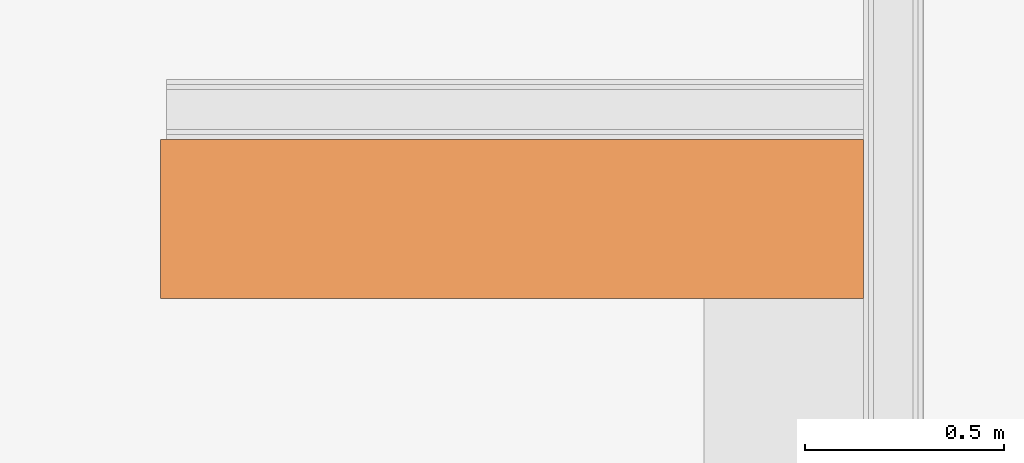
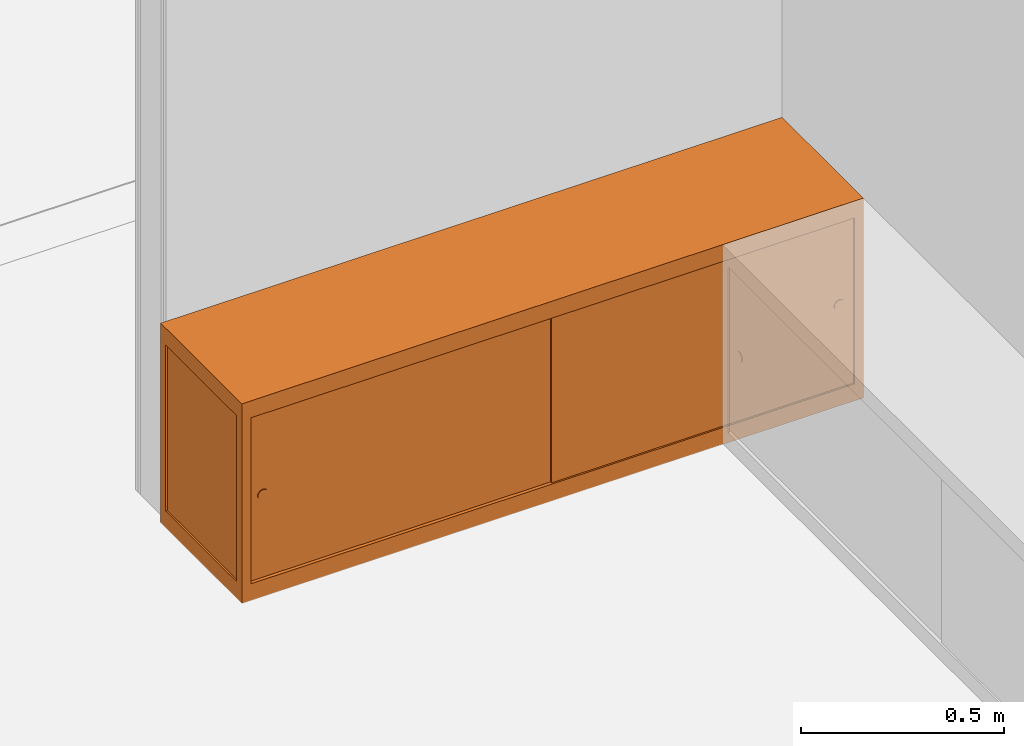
# One storey, part 35 of 35: 1 proxy.
"""IFC2X3 building model written with IfcOpenShell, lengths in millimetres."""

from ifc_helpers import new_model, entity, si_unit, converted_unit, derived_unit, money_unit, direction, frame, origin_with_axes, place, context, subcontext, project, spatial, faceted_brep, type_object, element, save


model = new_model("IFC2X3")

# Units and contexts
model_context = context("Model", 3, precision=0.01, world=origin_with_axes(), true_north=direction((0.0, 1.0)))
body_context = subcontext(model_context, "Body", "Model", "MODEL_VIEW")
ifc_project = project(units=[si_unit("LENGTHUNIT", "METRE", prefix="MILLI"), si_unit("AREAUNIT", "SQUARE_METRE"), si_unit("VOLUMEUNIT", "CUBIC_METRE"), converted_unit("PLANEANGLEUNIT", "DEGREE", entity("IfcPlaneAngleMeasure", 0.0174532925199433), si_unit("PLANEANGLEUNIT", "RADIAN"), dimensions=[0, 0, 0, 0, 0, 0, 0]), money_unit("EUR"), converted_unit("TIMEUNIT", "Year", entity("IfcTimeMeasure", 31557600.0), si_unit("TIMEUNIT", "SECOND"), dimensions=[0, 0, 1, 0, 0, 0, 0]), si_unit("MASSUNIT", "GRAM", prefix="KILO"), si_unit("THERMODYNAMICTEMPERATUREUNIT", "DEGREE_CELSIUS"), si_unit("LUMINOUSINTENSITYUNIT", "LUMEN"), si_unit("ENERGYUNIT", "JOULE", prefix="MEGA"), derived_unit("THERMALCONDUCTANCEUNIT", [(si_unit("POWERUNIT", "WATT"), 1), (si_unit("LENGTHUNIT", "METRE"), -1), (si_unit("THERMODYNAMICTEMPERATUREUNIT", "KELVIN"), -1)]), derived_unit("SPECIFICHEATCAPACITYUNIT", [(si_unit("ENERGYUNIT", "JOULE"), 1), (si_unit("MASSUNIT", "GRAM", prefix="KILO"), -1), (si_unit("THERMODYNAMICTEMPERATUREUNIT", "KELVIN"), -1)]), derived_unit("MASSDENSITYUNIT", [(si_unit("MASSUNIT", "GRAM", prefix="KILO"), 1), (si_unit("VOLUMEUNIT", "CUBIC_METRE"), -1)])], contexts=[model_context])

# Site, building, storey
site_placement = place(None, origin_with_axes())
site = spatial("IfcSite", under=ifc_project, at=site_placement, Name="<site naam>", CompositionType="ELEMENT")
building_placement = place(site_placement, origin_with_axes())
building = spatial("IfcBuilding", under=site, at=building_placement, Name="<Naam gebouw>", CompositionType="ELEMENT")
storey_placement = place(building_placement, frame((0.0, 0.0, 6345.0), z_axis=(0.0, 0.0, 1.0), x_axis=(1.0, 0.0, 0.0)))
storey = spatial("IfcBuildingStorey", under=building, at=storey_placement, Name="02 2e tussenverdieping", CompositionType="ELEMENT", Elevation=6345.0)

# Proxy
building_element_proxy_type = type_object("IfcBuildingElementProxyType", Name="Boekenkast 04 27 KM", PredefinedType="USERDEFINED")
proxy_placement = place(storey_placement, frame((54000.5357027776, 4385.000017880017, 0.0), z_axis=(0.0, 0.0, 1.0), x_axis=(1.0, 0.0, 0.0)))
element("IfcBuildingElementProxy", 1, at=proxy_placement, inside=storey, type_object=building_element_proxy_type, Name="72_Brandslanghaspelkast_Lege", ObjectType="Massing", context=body_context, shape_type="Brep", body=[
    faceted_brep([(0.0, 0.0, 0.0), (25.4, 0.0, 0.0), (25.4, 0.0, 600.0), (0.0, 0.0, 600.0), (0.0, 25.4, 0.0), (5.0, 25.4, 0.0), (5.0, 5.0, 0.0), (25.4, 5.0, 0.0), (25.4, 5.0, 600.0), (5.0, 5.0, 600.0), (5.0, 25.4, 600.0), (0.0, 25.4, 600.0)], [[[0, 1, 2, 3]], [[0, 4, 5, 6, 7, 1]], [[1, 7, 8, 2]], [[3, 2, 8, 9, 10, 11]], [[4, 0, 3, 11]], [[5, 4, 11, 10]], [[6, 5, 10, 9]], [[7, 6, 9, 8]]]),
    faceted_brep([(1765.247071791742, 25.4, 0.0), (1760.247071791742, 25.4, 0.0), (1760.247071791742, 25.4, 600.0), (1765.247071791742, 25.4, 600.0), (1765.247071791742, 0.0, 0.0), (1739.847071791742, 0.0, 0.0), (1739.847071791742, 5.0, 0.0), (1760.247071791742, 5.0, 0.0), (1760.247071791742, 5.0, 600.0), (1739.847071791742, 5.0, 600.0), (1739.847071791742, 0.0, 600.0), (1765.247071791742, 0.0, 600.0)], [[[0, 1, 2, 3]], [[0, 4, 5, 6, 7, 1]], [[1, 7, 8, 2]], [[3, 2, 8, 9, 10, 11]], [[4, 0, 3, 11]], [[5, 4, 11, 10]], [[6, 5, 10, 9]], [[7, 6, 9, 8]]]),
    faceted_brep([(0.0, 374.5999761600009, 0.0), (5.0, 374.5999761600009, 0.0), (5.0, 374.5999761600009, 600.0), (0.0, 374.5999761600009, 600.0), (0.0, 399.9999761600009, 0.0), (25.4, 399.9999761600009, 0.0), (25.4, 394.9999761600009, 0.0), (5.0, 394.9999761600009, 0.0), (5.0, 394.9999761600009, 600.0), (25.4, 394.9999761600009, 600.0), (25.4, 399.9999761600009, 600.0), (0.0, 399.9999761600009, 600.0)], [[[0, 1, 2, 3]], [[0, 4, 5, 6, 7, 1]], [[1, 7, 8, 2]], [[3, 2, 8, 9, 10, 11]], [[4, 0, 3, 11]], [[5, 4, 11, 10]], [[6, 5, 10, 9]], [[7, 6, 9, 8]]]),
    faceted_brep([(1765.247071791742, 399.9999761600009, 0.0), (1739.847071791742, 399.9999761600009, 0.0), (1739.847071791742, 399.9999761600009, 600.0), (1765.247071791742, 399.9999761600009, 600.0), (1765.247071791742, 374.5999761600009, 0.0), (1760.247071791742, 374.5999761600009, 0.0), (1760.247071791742, 394.9999761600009, 0.0), (1739.847071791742, 394.9999761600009, 0.0), (1739.847071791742, 394.9999761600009, 600.0), (1760.247071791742, 394.9999761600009, 600.0), (1760.247071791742, 374.5999761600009, 600.0), (1765.247071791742, 374.5999761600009, 600.0)], [[[0, 1, 2, 3]], [[0, 4, 5, 6, 7, 1]], [[1, 7, 8, 2]], [[3, 2, 8, 9, 10, 11]], [[4, 0, 3, 11]], [[5, 4, 11, 10]], [[6, 5, 10, 9]], [[7, 6, 9, 8]]]),
    faceted_brep([(5.0, 394.9999761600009, 0.0), (1760.247071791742, 394.9999761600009, 0.0), (1760.247071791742, 389.9999761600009, 0.0), (5.0, 389.9999761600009, 0.0), (5.0, 394.999976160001, 549.2), (1760.247071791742, 394.999976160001, 549.2), (1760.247071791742, 389.999976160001, 549.2), (5.0, 389.999976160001, 549.2)], [[[0, 1, 2, 3]], [[0, 4, 5, 1]], [[1, 5, 6, 2]], [[3, 2, 6, 7]], [[4, 0, 3, 7]], [[5, 4, 7, 6]]]),
    faceted_brep([(10.0, 389.9999761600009, 0.0), (10.00000000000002, 5.000000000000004, 0.0), (5.000000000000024, 5.000000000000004, 0.0), (5.0, 389.9999761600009, 0.0), (10.0, 389.999976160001, 549.2), (10.00000000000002, 5.00000000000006, 549.2), (5.000000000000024, 5.00000000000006, 549.2), (5.0, 389.999976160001, 549.2)], [[[0, 1, 2, 3]], [[0, 4, 5, 1]], [[1, 5, 6, 2]], [[3, 2, 6, 7]], [[4, 0, 3, 7]], [[5, 4, 7, 6]]]),
    faceted_brep([(1760.247071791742, 389.999976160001, 0.0), (1760.247071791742, 5.000000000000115, 0.0), (1755.247071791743, 5.000000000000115, 0.0), (1755.247071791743, 389.999976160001, 0.0), (1760.247071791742, 389.9999761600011, 549.2), (1760.247071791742, 5.000000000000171, 549.2), (1755.247071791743, 5.000000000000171, 549.2), (1755.247071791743, 389.9999761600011, 549.2)], [[[0, 1, 2, 3]], [[0, 4, 5, 1]], [[1, 5, 6, 2]], [[3, 2, 6, 7]], [[4, 0, 3, 7]], [[5, 4, 7, 6]]]),
    faceted_brep([(10.0, 10.0, 50.8), (882.6235358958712, 10.0, 50.8), (882.6235358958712, 10.0, 549.1999999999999), (10.0, 10.0, 549.1999999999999), (10.0, 15.0, 50.8), (882.6235358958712, 15.0, 50.8), (882.6235358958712, 15.0, 549.1999999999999), (10.0, 15.0, 549.1999999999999)], [[[0, 1, 2, 3]], [[0, 4, 5, 1]], [[1, 5, 6, 2]], [[3, 2, 6, 7]], [[4, 0, 3, 7]], [[5, 4, 7, 6]]]),
    faceted_brep([(882.6235358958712, 5.0, 50.8), (1755.247071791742, 5.0, 50.8), (1755.247071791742, 5.0, 549.1999999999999), (882.6235358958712, 5.0, 549.1999999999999), (882.6235358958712, 10.0, 50.8), (1755.247071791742, 10.0, 50.8), (1755.247071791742, 10.0, 549.1999999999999), (882.6235358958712, 10.0, 549.1999999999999)], [[[0, 1, 2, 3]], [[0, 4, 5, 1]], [[1, 5, 6, 2]], [[3, 2, 6, 7]], [[4, 0, 3, 7]], [[5, 4, 7, 6]]]),
    faceted_brep([(80.17211629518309, 10.00000000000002, 297.395277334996), (79.4953893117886, 10.00000000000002, 294.869697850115), (78.39038105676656, 10.00000000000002, 292.5), (76.89066664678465, 10.00000000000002, 290.3581858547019), (75.04181414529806, 10.00000000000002, 288.5093333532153), (72.89999999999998, 10.00000000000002, 287.0096189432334), (70.53030214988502, 10.00000000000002, 285.9046106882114), (68.00472266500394, 10.00000000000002, 285.2278837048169), (65.4, 10.00000000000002, 285.0000000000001), (62.79527733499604, 10.00000000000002, 285.2278837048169), (60.26969785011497, 10.00000000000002, 285.9046106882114), (57.90000000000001, 10.00000000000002, 287.0096189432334), (55.75818585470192, 10.00000000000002, 288.5093333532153), (53.90933335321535, 10.00000000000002, 290.3581858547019), (52.40961894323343, 10.00000000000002, 292.5), (51.30461068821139, 10.00000000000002, 294.869697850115), (50.62788370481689, 10.00000000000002, 297.395277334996), (50.40000000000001, 10.00000000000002, 300.0), (50.62788370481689, 10.00000000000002, 302.6047226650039), (51.30461068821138, 10.00000000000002, 305.130302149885), (52.40961894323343, 10.00000000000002, 307.5), (53.90933335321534, 10.00000000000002, 309.641814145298), (55.75818585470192, 10.00000000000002, 311.4906666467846), (57.90000000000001, 10.00000000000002, 312.9903810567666), (60.26969785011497, 10.00000000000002, 314.0953893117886), (62.79527733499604, 10.00000000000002, 314.7721162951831), (65.4, 10.00000000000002, 315.0), (68.00472266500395, 10.00000000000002, 314.7721162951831), (70.53030214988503, 10.00000000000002, 314.0953893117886), (72.89999999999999, 10.00000000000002, 312.9903810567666), (75.04181414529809, 10.00000000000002, 311.4906666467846), (76.89066664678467, 10.00000000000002, 309.641814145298), (78.39038105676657, 10.00000000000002, 307.5), (79.49538931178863, 10.00000000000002, 305.130302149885), (80.17211629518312, 10.00000000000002, 302.6047226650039), (80.4, 10.00000000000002, 300.0), (80.17211629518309, 8.00000000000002, 297.395277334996), (79.4953893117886, 8.00000000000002, 294.869697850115), (78.39038105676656, 8.00000000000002, 292.5), (76.89066664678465, 8.00000000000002, 290.3581858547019), (75.04181414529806, 8.000000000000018, 288.5093333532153), (72.89999999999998, 8.000000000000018, 287.0096189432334), (70.53030214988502, 8.000000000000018, 285.9046106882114), (68.00472266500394, 8.000000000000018, 285.2278837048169), (65.4, 8.000000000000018, 285.0000000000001), (62.79527733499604, 8.000000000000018, 285.2278837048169), (60.26969785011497, 8.000000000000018, 285.9046106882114), (57.90000000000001, 8.000000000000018, 287.0096189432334), (55.75818585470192, 8.000000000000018, 288.5093333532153), (53.90933335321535, 8.00000000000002, 290.3581858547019), (52.40961894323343, 8.00000000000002, 292.5), (51.30461068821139, 8.00000000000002, 294.869697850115), (50.62788370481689, 8.00000000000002, 297.395277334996), (50.40000000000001, 8.00000000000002, 300.0), (50.62788370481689, 8.00000000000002, 302.6047226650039), (51.30461068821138, 8.00000000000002, 305.130302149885), (52.40961894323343, 8.00000000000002, 307.5), (53.90933335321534, 8.00000000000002, 309.641814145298), (55.75818585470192, 8.000000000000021, 311.4906666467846), (57.90000000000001, 8.000000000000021, 312.9903810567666), (60.26969785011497, 8.000000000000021, 314.0953893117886), (62.79527733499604, 8.000000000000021, 314.7721162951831), (65.4, 8.000000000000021, 315.0), (68.00472266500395, 8.000000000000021, 314.7721162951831), (70.53030214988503, 8.000000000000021, 314.0953893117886), (72.89999999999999, 8.000000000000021, 312.9903810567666), (75.04181414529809, 8.000000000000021, 311.4906666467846), (76.89066664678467, 8.00000000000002, 309.641814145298), (78.39038105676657, 8.00000000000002, 307.5), (79.49538931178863, 8.00000000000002, 305.130302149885), (80.17211629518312, 8.00000000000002, 302.6047226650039), (80.4, 8.00000000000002, 300.0)], [[[0, 1, 2, 3, 4, 5, 6, 7, 8, 9, 10, 11, 12, 13, 14, 15, 16, 17, 18, 19, 20, 21, 22, 23, 24, 25, 26, 27, 28, 29, 30, 31, 32, 33, 34, 35]], [[1, 0, 36, 37]], [[2, 1, 37, 38]], [[3, 2, 38, 39]], [[4, 3, 39, 40]], [[5, 4, 40, 41]], [[6, 5, 41, 42]], [[7, 6, 42, 43]], [[8, 7, 43, 44]], [[9, 8, 44, 45]], [[10, 9, 45, 46]], [[11, 10, 46, 47]], [[12, 11, 47, 48]], [[13, 12, 48, 49]], [[14, 13, 49, 50]], [[15, 14, 50, 51]], [[16, 15, 51, 52]], [[17, 16, 52, 53]], [[18, 17, 53, 54]], [[19, 18, 54, 55]], [[20, 19, 55, 56]], [[21, 20, 56, 57]], [[22, 21, 57, 58]], [[23, 22, 58, 59]], [[24, 23, 59, 60]], [[25, 24, 60, 61]], [[26, 25, 61, 62]], [[27, 26, 62, 63]], [[28, 27, 63, 64]], [[29, 28, 64, 65]], [[30, 29, 65, 66]], [[31, 30, 66, 67]], [[32, 31, 67, 68]], [[33, 32, 68, 69]], [[34, 33, 69, 70]], [[35, 34, 70, 71]], [[0, 35, 71, 36]], [[36, 71, 70, 69, 68, 67, 66, 65, 64, 63, 62, 61, 60, 59, 58, 57, 56, 55, 54, 53, 52, 51, 50, 49, 48, 47, 46, 45, 44, 43, 42, 41, 40, 39, 38, 37]]]),
    faceted_brep([(1714.619188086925, 5.00000000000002, 297.395277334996), (1713.942461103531, 5.00000000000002, 294.869697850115), (1712.837452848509, 5.000000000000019, 292.5), (1711.337738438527, 5.000000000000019, 290.3581858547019), (1709.48888593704, 5.000000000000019, 288.5093333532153), (1707.347071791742, 5.000000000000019, 287.0096189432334), (1704.977373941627, 5.000000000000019, 285.9046106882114), (1702.451794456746, 5.000000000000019, 285.2278837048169), (1699.847071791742, 5.000000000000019, 285.0000000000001), (1697.242349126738, 5.000000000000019, 285.2278837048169), (1694.716769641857, 5.000000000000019, 285.9046106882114), (1692.347071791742, 5.000000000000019, 287.0096189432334), (1690.205257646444, 5.000000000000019, 288.5093333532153), (1688.356405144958, 5.000000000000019, 290.3581858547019), (1686.856690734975, 5.000000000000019, 292.5), (1685.751682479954, 5.00000000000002, 294.869697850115), (1685.074955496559, 5.00000000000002, 297.395277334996), (1684.847071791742, 5.00000000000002, 300.0), (1685.074955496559, 5.00000000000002, 302.6047226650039), (1685.751682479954, 5.00000000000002, 305.130302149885), (1686.856690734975, 5.00000000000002, 307.5), (1688.356405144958, 5.00000000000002, 309.641814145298), (1690.205257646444, 5.00000000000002, 311.4906666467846), (1692.347071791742, 5.00000000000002, 312.9903810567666), (1694.716769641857, 5.00000000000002, 314.0953893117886), (1697.242349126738, 5.00000000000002, 314.7721162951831), (1699.847071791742, 5.00000000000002, 315.0), (1702.451794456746, 5.00000000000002, 314.7721162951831), (1704.977373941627, 5.00000000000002, 314.0953893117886), (1707.347071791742, 5.00000000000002, 312.9903810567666), (1709.48888593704, 5.00000000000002, 311.4906666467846), (1711.337738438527, 5.00000000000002, 309.641814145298), (1712.837452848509, 5.00000000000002, 307.5), (1713.942461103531, 5.00000000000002, 305.130302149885), (1714.619188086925, 5.00000000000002, 302.6047226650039), (1714.847071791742, 5.00000000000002, 300.0), (1714.619188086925, 3.000000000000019, 297.395277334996), (1713.942461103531, 3.000000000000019, 294.869697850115), (1712.837452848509, 3.000000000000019, 292.5), (1711.337738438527, 3.000000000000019, 290.3581858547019), (1709.48888593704, 3.000000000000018, 288.5093333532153), (1707.347071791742, 3.000000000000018, 287.0096189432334), (1704.977373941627, 3.000000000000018, 285.9046106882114), (1702.451794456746, 3.000000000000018, 285.2278837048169), (1699.847071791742, 3.000000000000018, 285.0000000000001), (1697.242349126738, 3.000000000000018, 285.2278837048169), (1694.716769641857, 3.000000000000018, 285.9046106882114), (1692.347071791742, 3.000000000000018, 287.0096189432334), (1690.205257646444, 3.000000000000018, 288.5093333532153), (1688.356405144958, 3.000000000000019, 290.3581858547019), (1686.856690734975, 3.000000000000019, 292.5), (1685.751682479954, 3.000000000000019, 294.869697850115), (1685.074955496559, 3.000000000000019, 297.395277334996), (1684.847071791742, 3.000000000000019, 300.0), (1685.074955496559, 3.000000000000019, 302.6047226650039), (1685.751682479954, 3.00000000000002, 305.130302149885), (1686.856690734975, 3.00000000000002, 307.5), (1688.356405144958, 3.00000000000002, 309.641814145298), (1690.205257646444, 3.00000000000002, 311.4906666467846), (1692.347071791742, 3.00000000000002, 312.9903810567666), (1694.716769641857, 3.00000000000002, 314.0953893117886), (1697.242349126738, 3.00000000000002, 314.7721162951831), (1699.847071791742, 3.00000000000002, 315.0), (1702.451794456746, 3.00000000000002, 314.7721162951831), (1704.977373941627, 3.00000000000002, 314.0953893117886), (1707.347071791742, 3.00000000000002, 312.9903810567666), (1709.48888593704, 3.00000000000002, 311.4906666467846), (1711.337738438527, 3.00000000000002, 309.641814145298), (1712.837452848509, 3.00000000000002, 307.5), (1713.942461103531, 3.00000000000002, 305.130302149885), (1714.619188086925, 3.000000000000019, 302.6047226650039), (1714.847071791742, 3.000000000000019, 300.0)], [[[0, 1, 2, 3, 4, 5, 6, 7, 8, 9, 10, 11, 12, 13, 14, 15, 16, 17, 18, 19, 20, 21, 22, 23, 24, 25, 26, 27, 28, 29, 30, 31, 32, 33, 34, 35]], [[1, 0, 36, 37]], [[2, 1, 37, 38]], [[3, 2, 38, 39]], [[4, 3, 39, 40]], [[5, 4, 40, 41]], [[6, 5, 41, 42]], [[7, 6, 42, 43]], [[8, 7, 43, 44]], [[9, 8, 44, 45]], [[10, 9, 45, 46]], [[11, 10, 46, 47]], [[12, 11, 47, 48]], [[13, 12, 48, 49]], [[14, 13, 49, 50]], [[15, 14, 50, 51]], [[16, 15, 51, 52]], [[17, 16, 52, 53]], [[18, 17, 53, 54]], [[19, 18, 54, 55]], [[20, 19, 55, 56]], [[21, 20, 56, 57]], [[22, 21, 57, 58]], [[23, 22, 58, 59]], [[24, 23, 59, 60]], [[25, 24, 60, 61]], [[26, 25, 61, 62]], [[27, 26, 62, 63]], [[28, 27, 63, 64]], [[29, 28, 64, 65]], [[30, 29, 65, 66]], [[31, 30, 66, 67]], [[32, 31, 67, 68]], [[33, 32, 68, 69]], [[34, 33, 69, 70]], [[35, 34, 70, 71]], [[0, 35, 71, 36]], [[36, 71, 70, 69, 68, 67, 66, 65, 64, 63, 62, 61, 60, 59, 58, 57, 56, 55, 54, 53, 52, 51, 50, 49, 48, 47, 46, 45, 44, 43, 42, 41, 40, 39, 38, 37]]]),
    faceted_brep([(25.4, 399.9999761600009, 0.0), (25.4, 394.9999761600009, 0.0), (25.4, 394.9999761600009, 50.8), (25.4, 399.9999761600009, 50.8), (1739.847071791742, 399.9999761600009, 0.0), (1739.847071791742, 394.9999761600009, 0.0), (1739.847071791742, 394.9999761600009, 50.8), (1739.847071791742, 399.9999761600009, 50.8)], [[[0, 1, 2, 3]], [[0, 4, 5, 1]], [[1, 5, 6, 2]], [[3, 2, 6, 7]], [[4, 0, 3, 7]], [[5, 4, 7, 6]]]),
    faceted_brep([(0.0, 25.4, 0.0), (5.0, 25.4, 0.0), (5.0, 25.4, 50.8), (0.0, 25.4, 50.8), (0.0, 374.5999761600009, 0.0), (5.0, 374.5999761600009, 0.0), (5.0, 374.5999761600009, 50.8), (0.0, 374.5999761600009, 50.8)], [[[0, 1, 2, 3]], [[0, 4, 5, 1]], [[1, 5, 6, 2]], [[3, 2, 6, 7]], [[4, 0, 3, 7]], [[5, 4, 7, 6]]]),
    faceted_brep([(1765.247071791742, 374.5999761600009, 0.0), (1760.247071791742, 374.5999761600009, 0.0), (1760.247071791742, 374.5999761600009, 50.8), (1765.247071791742, 374.5999761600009, 50.8), (1765.247071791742, 25.4, 0.0), (1760.247071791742, 25.4, 0.0), (1760.247071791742, 25.4, 50.8), (1765.247071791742, 25.4, 50.8)], [[[0, 1, 2, 3]], [[0, 4, 5, 1]], [[1, 5, 6, 2]], [[3, 2, 6, 7]], [[4, 0, 3, 7]], [[5, 4, 7, 6]]]),
    faceted_brep([(1739.847071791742, 0.0, 0.0), (1739.847071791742, 5.0, 0.0), (1739.847071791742, 5.0, 50.8), (1739.847071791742, 0.0, 50.8), (25.4, 0.0, 0.0), (25.4, 5.0, 0.0), (10.0, 5.0, 0.0), (10.0, 20.0, 0.0), (1755.247071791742, 20.0, 0.0), (1755.247071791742, 5.0, 0.0), (1755.247071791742, 5.0, 50.8), (1755.247071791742, 20.0, 50.8), (10.0, 20.0, 50.8), (10.0, 5.0, 50.8), (25.4, 5.0, 50.8), (25.4, 0.0, 50.8)], [[[0, 1, 2, 3]], [[0, 4, 5, 6, 7, 8, 9, 1]], [[1, 9, 10, 2]], [[3, 2, 10, 11, 12, 13, 14, 15]], [[4, 0, 3, 15]], [[5, 4, 15, 14]], [[6, 5, 14, 13]], [[7, 6, 13, 12]], [[8, 7, 12, 11]], [[9, 8, 11, 10]]]),
    faceted_brep([(10.0, 10.0, 549.2), (1755.247071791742, 10.0, 549.2), (1755.247071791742, 10.0, 600.0), (10.0, 10.0, 600.0), (10.0, 389.9999761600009, 549.2), (1755.247071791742, 389.9999761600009, 549.2), (1755.247071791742, 389.9999761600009, 600.0), (10.0, 389.9999761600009, 600.0)], [[[0, 1, 2, 3]], [[0, 4, 5, 1]], [[1, 5, 6, 2]], [[3, 2, 6, 7]], [[4, 0, 3, 7]], [[5, 4, 7, 6]]]),
    faceted_brep([(0.0, 25.4, 549.2), (5.0, 25.4, 549.2), (5.0, 25.4, 600.0), (0.0, 25.4, 600.0), (0.0, 374.5999761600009, 549.2), (5.0, 374.5999761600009, 549.2), (5.0, 394.9999761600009, 549.2), (10.0, 389.9999761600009, 549.2), (10.0, 10.0, 549.2), (5.0, 5.0, 549.2), (5.0, 5.0, 600.0), (10.0, 10.0, 600.0), (10.0, 389.9999761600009, 600.0), (5.0, 394.9999761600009, 600.0), (5.0, 374.5999761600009, 600.0), (0.0, 374.5999761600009, 600.0)], [[[0, 1, 2, 3]], [[0, 4, 5, 6, 7, 8, 9, 1]], [[1, 9, 10, 2]], [[3, 2, 10, 11, 12, 13, 14, 15]], [[4, 0, 3, 15]], [[5, 4, 15, 14]], [[6, 5, 14, 13]], [[7, 6, 13, 12]], [[8, 7, 12, 11]], [[9, 8, 11, 10]]]),
    faceted_brep([(1765.247071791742, 374.5999761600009, 549.2), (1760.247071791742, 374.5999761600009, 549.2), (1760.247071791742, 374.5999761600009, 600.0), (1765.247071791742, 374.5999761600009, 600.0), (1765.247071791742, 25.4, 549.2), (1760.247071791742, 25.4, 549.2), (1760.247071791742, 5.0, 549.2), (1755.247071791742, 10.0, 549.2), (1755.247071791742, 389.9999761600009, 549.2), (1760.247071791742, 394.9999761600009, 549.2), (1760.247071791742, 394.9999761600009, 600.0), (1755.247071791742, 389.9999761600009, 600.0), (1755.247071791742, 10.0, 600.0), (1760.247071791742, 5.0, 600.0), (1760.247071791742, 25.4, 600.0), (1765.247071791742, 25.4, 600.0)], [[[0, 1, 2, 3]], [[0, 4, 5, 6, 7, 8, 9, 1]], [[1, 9, 10, 2]], [[3, 2, 10, 11, 12, 13, 14, 15]], [[4, 0, 3, 15]], [[5, 4, 15, 14]], [[6, 5, 14, 13]], [[7, 6, 13, 12]], [[8, 7, 12, 11]], [[9, 8, 11, 10]]]),
    faceted_brep([(1739.847071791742, 0.0, 549.2), (1739.847071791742, 5.0, 549.2), (1739.847071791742, 5.0, 600.0), (1739.847071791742, 0.0, 600.0), (25.4, 0.0, 549.2), (25.4, 5.0, 549.2), (5.0, 5.0, 549.2), (10.0, 10.0, 549.2), (1755.247071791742, 10.0, 549.2), (1760.247071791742, 5.0, 549.2), (1760.247071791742, 5.0, 600.0), (1755.247071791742, 10.0, 600.0), (10.0, 10.0, 600.0), (5.0, 5.0, 600.0), (25.4, 5.0, 600.0), (25.4, 0.0, 600.0)], [[[0, 1, 2, 3]], [[0, 4, 5, 6, 7, 8, 9, 1]], [[1, 9, 10, 2]], [[3, 2, 10, 11, 12, 13, 14, 15]], [[4, 0, 3, 15]], [[5, 4, 15, 14]], [[6, 5, 14, 13]], [[7, 6, 13, 12]], [[8, 7, 12, 11]], [[9, 8, 11, 10]]]),
    faceted_brep([(25.4, 399.9999761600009, 549.2), (25.4, 394.9999761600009, 549.2), (25.4, 394.9999761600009, 600.0), (25.4, 399.9999761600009, 600.0), (1739.847071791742, 399.9999761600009, 549.2), (1739.847071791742, 394.9999761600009, 549.2), (1760.247071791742, 394.9999761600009, 549.2), (1755.247071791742, 389.9999761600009, 549.2), (10.0, 389.9999761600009, 549.2), (5.0, 394.9999761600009, 549.2), (5.0, 394.9999761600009, 600.0), (10.0, 389.9999761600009, 600.0), (1755.247071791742, 389.9999761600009, 600.0), (1760.247071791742, 394.9999761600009, 600.0), (1739.847071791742, 394.9999761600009, 600.0), (1739.847071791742, 399.9999761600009, 600.0)], [[[0, 1, 2, 3]], [[0, 4, 5, 6, 7, 8, 9, 1]], [[1, 9, 10, 2]], [[3, 2, 10, 11, 12, 13, 14, 15]], [[4, 0, 3, 15]], [[5, 4, 15, 14]], [[6, 5, 14, 13]], [[7, 6, 13, 12]], [[8, 7, 12, 11]], [[9, 8, 11, 10]]]),
])

save(model, "model.ifc")
